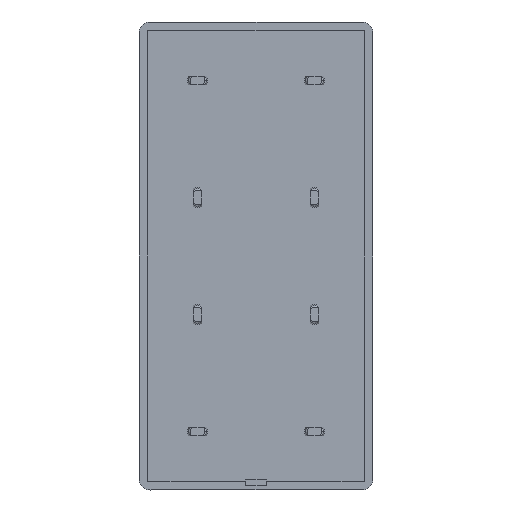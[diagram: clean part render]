
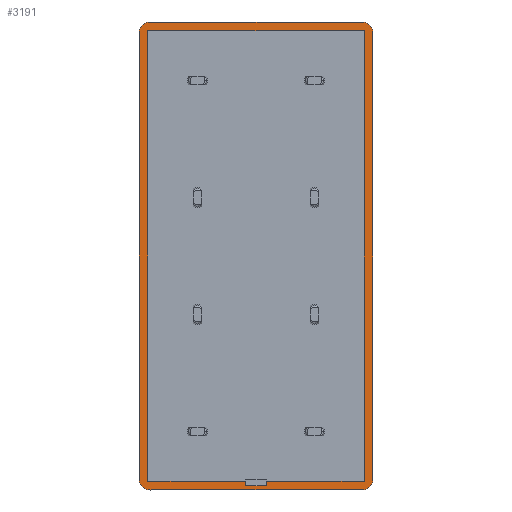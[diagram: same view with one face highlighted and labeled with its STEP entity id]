
A CAD part, front view. The second image highlights one B-rep face of the part: STEP entity #3191.
In plain terms, the highlighted planar face has unit normal (0, -1, 0).
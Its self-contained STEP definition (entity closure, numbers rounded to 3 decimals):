
#12 = VECTOR ( 'NONE', #920, 1000. ) ;
#16 = DIRECTION ( 'NONE',  ( 1., 0., 0. ) ) ;
#39 = ORIENTED_EDGE ( 'NONE', *, *, #2997, .T. ) ;
#84 = CARTESIAN_POINT ( 'NONE',  ( -36., -4., -76. ) ) ;
#119 = LINE ( 'NONE', #994, #12 ) ;
#153 = CARTESIAN_POINT ( 'NONE',  ( 40., -4., 76. ) ) ;
#158 = CIRCLE ( 'NONE', #580, 4. ) ;
#194 = CARTESIAN_POINT ( 'NONE',  ( 36., -4., 80. ) ) ;
#197 = VERTEX_POINT ( 'NONE', #153 ) ;
#209 = ORIENTED_EDGE ( 'NONE', *, *, #2895, .F. ) ;
#237 = CARTESIAN_POINT ( 'NONE',  ( 40., -4., -76. ) ) ;
#266 = CARTESIAN_POINT ( 'NONE',  ( -36., -4., -80. ) ) ;
#298 = CARTESIAN_POINT ( 'NONE',  ( 37., -4., -76. ) ) ;
#300 = DIRECTION ( 'NONE',  ( 0., 0., -1. ) ) ;
#407 = LINE ( 'NONE', #1051, #3730 ) ;
#428 = VERTEX_POINT ( 'NONE', #1079 ) ;
#451 = DIRECTION ( 'NONE',  ( 0., 0., 1. ) ) ;
#513 = VECTOR ( 'NONE', #3000, 1000. ) ;
#567 = AXIS2_PLACEMENT_3D ( 'NONE', #84, #1355, #2362 ) ;
#569 = VECTOR ( 'NONE', #2300, 1000. ) ;
#580 = AXIS2_PLACEMENT_3D ( 'NONE', #838, #806, #784 ) ;
#599 = VECTOR ( 'NONE', #300, 1000. ) ;
#645 = ORIENTED_EDGE ( 'NONE', *, *, #2429, .F. ) ;
#669 = AXIS2_PLACEMENT_3D ( 'NONE', #2294, #2267, #2203 ) ;
#729 = CARTESIAN_POINT ( 'NONE',  ( 36., -4., -80. ) ) ;
#764 = AXIS2_PLACEMENT_3D ( 'NONE', #1731, #1464, #3984 ) ;
#771 = EDGE_CURVE ( 'NONE', #1247, #3203, #1325, .T. ) ;
#784 = DIRECTION ( 'NONE',  ( -1., 0., 0. ) ) ;
#795 = VERTEX_POINT ( 'NONE', #3384 ) ;
#806 = DIRECTION ( 'NONE',  ( 0., 1., 0. ) ) ;
#811 = ORIENTED_EDGE ( 'NONE', *, *, #3024, .T. ) ;
#828 = LINE ( 'NONE', #962, #3339 ) ;
#838 = CARTESIAN_POINT ( 'NONE',  ( 36., -4., 76. ) ) ;
#843 = VERTEX_POINT ( 'NONE', #1012 ) ;
#920 = DIRECTION ( 'NONE',  ( -1., 0., 0. ) ) ;
#927 = AXIS2_PLACEMENT_3D ( 'NONE', #1689, #1672, #1629 ) ;
#935 = VERTEX_POINT ( 'NONE', #2286 ) ;
#960 = CARTESIAN_POINT ( 'NONE',  ( -40., -4., 76. ) ) ;
#962 = CARTESIAN_POINT ( 'NONE',  ( 3.5, -4., -76. ) ) ;
#975 = DIRECTION ( 'NONE',  ( 0., 0., -1. ) ) ;
#994 = CARTESIAN_POINT ( 'NONE',  ( -36., -4., -77. ) ) ;
#1012 = CARTESIAN_POINT ( 'NONE',  ( 3.5, -4., -78.5 ) ) ;
#1051 = CARTESIAN_POINT ( 'NONE',  ( -40., -4., 76. ) ) ;
#1056 = VERTEX_POINT ( 'NONE', #1436 ) ;
#1079 = CARTESIAN_POINT ( 'NONE',  ( -3.5, -4., -78.5 ) ) ;
#1090 = DIRECTION ( 'NONE',  ( 0., 0., -1. ) ) ;
#1100 = CARTESIAN_POINT ( 'NONE',  ( -37., -4., -77. ) ) ;
#1144 = VECTOR ( 'NONE', #451, 1000. ) ;
#1160 = VERTEX_POINT ( 'NONE', #960 ) ;
#1161 = LINE ( 'NONE', #1208, #2818 ) ;
#1208 = CARTESIAN_POINT ( 'NONE',  ( 36., -4., 80. ) ) ;
#1231 = LINE ( 'NONE', #3773, #1144 ) ;
#1247 = VERTEX_POINT ( 'NONE', #266 ) ;
#1275 = LINE ( 'NONE', #2361, #1901 ) ;
#1277 = CARTESIAN_POINT ( 'NONE',  ( 3.5, -4., -77. ) ) ;
#1325 = LINE ( 'NONE', #2083, #569 ) ;
#1355 = DIRECTION ( 'NONE',  ( 0., -1., 0. ) ) ;
#1400 = ORIENTED_EDGE ( 'NONE', *, *, #3051, .F. ) ;
#1419 = CARTESIAN_POINT ( 'NONE',  ( -36., -4., -77. ) ) ;
#1423 = FACE_BOUND ( 'NONE', #3199, .T. ) ;
#1436 = CARTESIAN_POINT ( 'NONE',  ( 37., -4., -77. ) ) ;
#1464 = DIRECTION ( 'NONE',  ( 0., 1., 0. ) ) ;
#1493 = ORIENTED_EDGE ( 'NONE', *, *, #3073, .T. ) ;
#1572 = VECTOR ( 'NONE', #16, 1000. ) ;
#1597 = EDGE_LOOP ( 'NONE', ( #645, #2735, #209, #3843, #3677, #2561, #1400, #3752 ) ) ;
#1629 = DIRECTION ( 'NONE',  ( -1., 0., 0. ) ) ;
#1672 = DIRECTION ( 'NONE',  ( 0., 1., 0. ) ) ;
#1689 = CARTESIAN_POINT ( 'NONE',  ( -36., -4., 76. ) ) ;
#1724 = VERTEX_POINT ( 'NONE', #2973 ) ;
#1731 = CARTESIAN_POINT ( 'NONE',  ( -36., -4., -76. ) ) ;
#1756 = VECTOR ( 'NONE', #3922, 1000. ) ;
#1772 = EDGE_CURVE ( 'NONE', #1831, #1724, #1161, .T. ) ;
#1831 = VERTEX_POINT ( 'NONE', #194 ) ;
#1835 = CARTESIAN_POINT ( 'NONE',  ( 40., -4., 76. ) ) ;
#1901 = VECTOR ( 'NONE', #2608, 1000. ) ;
#1943 = DIRECTION ( 'NONE',  ( 0., 0., 1. ) ) ;
#2014 = LINE ( 'NONE', #1835, #3556 ) ;
#2083 = CARTESIAN_POINT ( 'NONE',  ( 36., -4., -80. ) ) ;
#2149 = ORIENTED_EDGE ( 'NONE', *, *, #3157, .T. ) ;
#2159 = DIRECTION ( 'NONE',  ( -1., 0., 0. ) ) ;
#2203 = DIRECTION ( 'NONE',  ( -1., 0., 0. ) ) ;
#2267 = DIRECTION ( 'NONE',  ( 0., 1., 0. ) ) ;
#2286 = CARTESIAN_POINT ( 'NONE',  ( -3.5, -4., -77. ) ) ;
#2294 = CARTESIAN_POINT ( 'NONE',  ( 36., -4., -76. ) ) ;
#2300 = DIRECTION ( 'NONE',  ( 1., 0., 0. ) ) ;
#2361 = CARTESIAN_POINT ( 'NONE',  ( -37., -4., -76. ) ) ;
#2362 = DIRECTION ( 'NONE',  ( 1., 0., 0. ) ) ;
#2429 = EDGE_CURVE ( 'NONE', #1160, #1724, #3301, .T. ) ;
#2482 = LINE ( 'NONE', #298, #599 ) ;
#2556 = VERTEX_POINT ( 'NONE', #237 ) ;
#2561 = ORIENTED_EDGE ( 'NONE', *, *, #3144, .T. ) ;
#2608 = DIRECTION ( 'NONE',  ( 0., 0., 1. ) ) ;
#2708 = VERTEX_POINT ( 'NONE', #3737 ) ;
#2727 = CARTESIAN_POINT ( 'NONE',  ( -36., -4., -78.5 ) ) ;
#2735 = ORIENTED_EDGE ( 'NONE', *, *, #3114, .T. ) ;
#2776 = VERTEX_POINT ( 'NONE', #3447 ) ;
#2818 = VECTOR ( 'NONE', #2159, 1000. ) ;
#2825 = CARTESIAN_POINT ( 'NONE',  ( -36., -4., 77. ) ) ;
#2895 = EDGE_CURVE ( 'NONE', #1247, #795, #3656, .T. ) ;
#2954 = CIRCLE ( 'NONE', #669, 4. ) ;
#2973 = CARTESIAN_POINT ( 'NONE',  ( -36., -4., 80. ) ) ;
#2986 = ORIENTED_EDGE ( 'NONE', *, *, #3101, .T. ) ;
#2997 = EDGE_CURVE ( 'NONE', #428, #935, #1231, .T. ) ;
#3000 = DIRECTION ( 'NONE',  ( -1., 0., 0. ) ) ;
#3024 = EDGE_CURVE ( 'NONE', #935, #3264, #3602, .T. ) ;
#3051 = EDGE_CURVE ( 'NONE', #1831, #197, #158, .T. ) ;
#3057 = EDGE_CURVE ( 'NONE', #3861, #843, #828, .T. ) ;
#3061 = EDGE_CURVE ( 'NONE', #2776, #2708, #4084, .T. ) ;
#3073 = EDGE_CURVE ( 'NONE', #2708, #1056, #2482, .T. ) ;
#3101 = EDGE_CURVE ( 'NONE', #843, #428, #3906, .T. ) ;
#3114 = EDGE_CURVE ( 'NONE', #1160, #795, #407, .T. ) ;
#3127 = EDGE_CURVE ( 'NONE', #2556, #3203, #2954, .T. ) ;
#3135 = EDGE_CURVE ( 'NONE', #3264, #2776, #1275, .T. ) ;
#3144 = EDGE_CURVE ( 'NONE', #2556, #197, #2014, .T. ) ;
#3157 = EDGE_CURVE ( 'NONE', #1056, #3861, #119, .T. ) ;
#3191 = ADVANCED_FACE ( 'NONE', ( #3218, #1423 ), #3904, .T. ) ;
#3199 = EDGE_LOOP ( 'NONE', ( #3845, #2986, #39, #811, #4018, #3753, #1493, #2149 ) ) ;
#3203 = VERTEX_POINT ( 'NONE', #729 ) ;
#3218 = FACE_OUTER_BOUND ( 'NONE', #1597, .T. ) ;
#3264 = VERTEX_POINT ( 'NONE', #1100 ) ;
#3301 = CIRCLE ( 'NONE', #927, 4. ) ;
#3339 = VECTOR ( 'NONE', #1090, 1000. ) ;
#3384 = CARTESIAN_POINT ( 'NONE',  ( -40., -4., -76. ) ) ;
#3447 = CARTESIAN_POINT ( 'NONE',  ( -37., -4., 77. ) ) ;
#3556 = VECTOR ( 'NONE', #1943, 1000. ) ;
#3602 = LINE ( 'NONE', #1419, #1756 ) ;
#3656 = CIRCLE ( 'NONE', #764, 4. ) ;
#3677 = ORIENTED_EDGE ( 'NONE', *, *, #3127, .F. ) ;
#3730 = VECTOR ( 'NONE', #975, 1000. ) ;
#3737 = CARTESIAN_POINT ( 'NONE',  ( 37., -4., 77. ) ) ;
#3752 = ORIENTED_EDGE ( 'NONE', *, *, #1772, .T. ) ;
#3753 = ORIENTED_EDGE ( 'NONE', *, *, #3061, .T. ) ;
#3773 = CARTESIAN_POINT ( 'NONE',  ( -3.5, -4., -76. ) ) ;
#3843 = ORIENTED_EDGE ( 'NONE', *, *, #771, .T. ) ;
#3845 = ORIENTED_EDGE ( 'NONE', *, *, #3057, .T. ) ;
#3861 = VERTEX_POINT ( 'NONE', #1277 ) ;
#3904 = PLANE ( 'NONE',  #567 ) ;
#3906 = LINE ( 'NONE', #2727, #513 ) ;
#3922 = DIRECTION ( 'NONE',  ( -1., 0., 0. ) ) ;
#3984 = DIRECTION ( 'NONE',  ( -1., 0., 0. ) ) ;
#4018 = ORIENTED_EDGE ( 'NONE', *, *, #3135, .T. ) ;
#4084 = LINE ( 'NONE', #2825, #1572 ) ;
